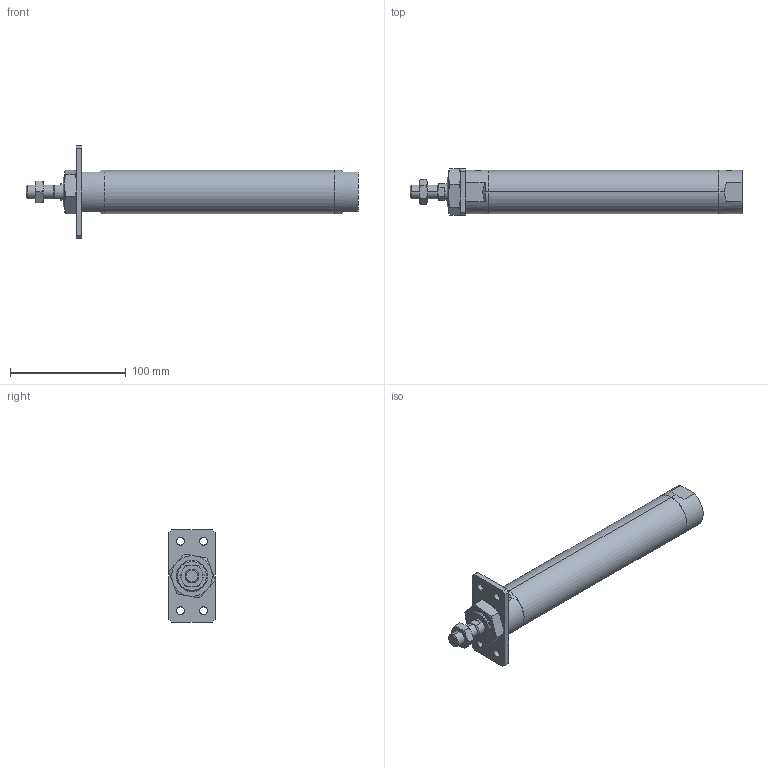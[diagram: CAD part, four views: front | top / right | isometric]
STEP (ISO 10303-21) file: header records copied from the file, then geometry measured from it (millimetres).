
FILE_DESCRIPTION (( 'STEP AP203' ), '1' );
FILE_NAME ('JGND2-32-150-A.STEP', '2016-08-04T02:54:30', ( '' ), ( '' ), 'SwSTEP 2.0', 'SolidWorks 2014', '' );
FILE_SCHEMA (( 'CONFIG_CONTROL_DESIGN' ));
Length unit declared in the file: millimetre
Products named in the file (5): J#2-32-A; J#2-32-150(P); JGND2-32-150-A
Assembly tree (4 placements, depth 2):
  JGND2-32-150-A
    J#2-32-150(P)
    (unnamed)
    (unnamed)
    J#2-32-A
Bounding box: 287 x 40 x 80 mm (x, y, z)
Volume: 293449.5 mm3; surface area: 45193.8 mm2
Topology: 4 solids, 4 shells, 109 faces, 254 edges, 155 vertices
Faces by surface type: plane 42, cylinder 30, torus 24, cone 13
Entity records: 4084 total; most frequent: CARTESIAN_POINT 1128, DIRECTION 511, ORIENTED_EDGE 500, EDGE_CURVE 250, AXIS2_PLACEMENT_3D 208, VERTEX_POINT 155, EDGE_LOOP 129, ADVANCED_FACE 109
